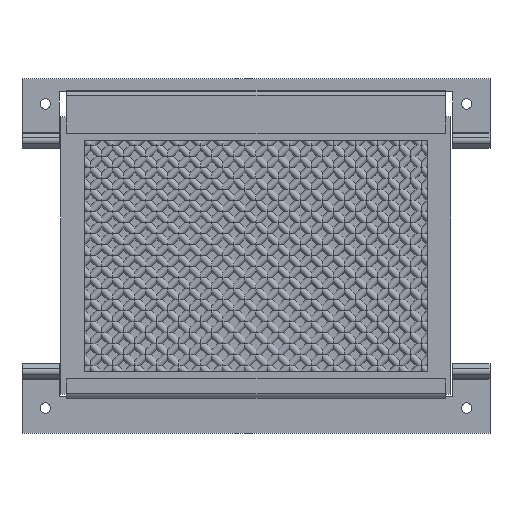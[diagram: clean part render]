
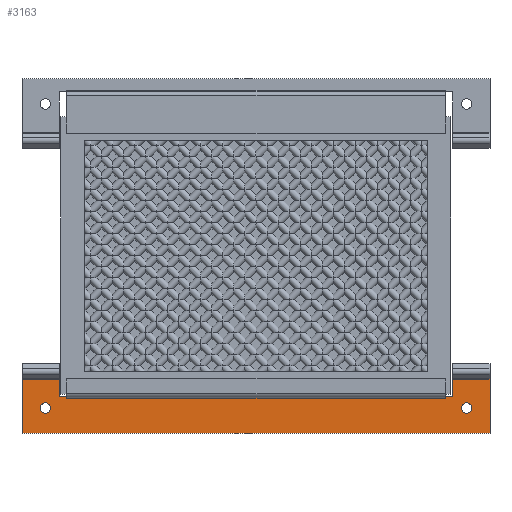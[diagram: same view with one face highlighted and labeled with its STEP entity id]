
A CAD part, front view. The second image highlights one B-rep face of the part: STEP entity #3163.
In plain terms, the highlighted planar face has unit normal (0, -1, 0).
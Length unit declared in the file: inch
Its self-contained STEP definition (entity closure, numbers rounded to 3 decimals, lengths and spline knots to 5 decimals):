
#2295=DIRECTION('',(-1.,0.,0.));
#2296=VECTOR('',#2295,0.125);
#2297=CARTESIAN_POINT('',(3.156,0.,-0.1389));
#2298=LINE('',#2297,#2296);
#2299=DIRECTION('',(0.,0.,-1.));
#2300=VECTOR('',#2299,0.02);
#2301=CARTESIAN_POINT('',(3.031,0.,-0.1189));
#2302=LINE('',#2301,#2300);
#2303=DIRECTION('',(0.,0.,-1.));
#2304=VECTOR('',#2303,0.02);
#2305=CARTESIAN_POINT('',(-3.031,0.,-0.1189));
#2306=LINE('',#2305,#2304);
#2307=DIRECTION('',(-1.,0.,0.));
#2308=VECTOR('',#2307,0.125);
#2309=CARTESIAN_POINT('',(-3.031,0.,-0.1389));
#2310=LINE('',#2309,#2308);
#2311=DIRECTION('',(0.,0.,1.));
#2312=VECTOR('',#2311,0.28235);
#2313=CARTESIAN_POINT('',(-3.156,0.,-0.42125));
#2314=LINE('',#2313,#2312);
#2315=DIRECTION('',(0.,0.,-1.));
#2316=VECTOR('',#2315,0.86735);
#2317=CARTESIAN_POINT('',(-3.75,0.,0.4461));
#2318=LINE('',#2317,#2316);
#2319=DIRECTION('',(0.,0.,1.));
#2320=VECTOR('',#2319,0.28235);
#2321=CARTESIAN_POINT('',(3.156,0.,-0.42125));
#2322=LINE('',#2321,#2320);
#2323=CARTESIAN_POINT('',(3.375,0.,0.0401));
#2324=DIRECTION('',(0.,1.,0.));
#2325=DIRECTION('',(1.,0.,0.));
#2326=AXIS2_PLACEMENT_3D('',#2323,#2324,#2325);
#2328=CARTESIAN_POINT('',(3.375,0.,0.0401));
#2329=DIRECTION('',(0.,1.,0.));
#2330=DIRECTION('',(-1.,0.,0.));
#2331=AXIS2_PLACEMENT_3D('',#2328,#2329,#2330);
#2333=CARTESIAN_POINT('',(-3.375,0.,0.0401));
#2334=DIRECTION('',(0.,1.,0.));
#2335=DIRECTION('',(1.,0.,0.));
#2336=AXIS2_PLACEMENT_3D('',#2333,#2334,#2335);
#2338=CARTESIAN_POINT('',(-3.375,0.,0.0401));
#2339=DIRECTION('',(0.,1.,0.));
#2340=DIRECTION('',(-1.,0.,0.));
#2341=AXIS2_PLACEMENT_3D('',#2338,#2339,#2340);
#2357=DIRECTION('',(1.,0.,0.));
#2358=VECTOR('',#2357,6.062);
#2359=CARTESIAN_POINT('',(-3.031,0.,-0.1189));
#2360=LINE('',#2359,#2358);
#2585=DIRECTION('',(1.,0.,0.));
#2586=VECTOR('',#2585,0.594);
#2587=CARTESIAN_POINT('',(-3.75,0.,-0.42125));
#2588=LINE('',#2587,#2586);
#2594=DIRECTION('',(1.,0.,0.));
#2595=VECTOR('',#2594,0.594);
#2596=CARTESIAN_POINT('',(3.156,0.,-0.42125));
#2597=LINE('',#2596,#2595);
#2811=DIRECTION('',(1.,0.,0.));
#2812=VECTOR('',#2811,7.5);
#2813=CARTESIAN_POINT('',(-3.75,0.,0.4461));
#2814=LINE('',#2813,#2812);
#2823=DIRECTION('',(0.,0.,-1.));
#2824=VECTOR('',#2823,0.86735);
#2825=CARTESIAN_POINT('',(3.75,0.,0.4461));
#2826=LINE('',#2825,#2824);
#2867=CARTESIAN_POINT('',(-3.75,0.,0.4461));
#2868=CARTESIAN_POINT('',(3.75,0.,0.4461));
#2869=VERTEX_POINT('',#2867);
#2870=VERTEX_POINT('',#2868);
#2884=CARTESIAN_POINT('',(3.75,0.,-0.42125));
#2886=VERTEX_POINT('',#2884);
#2888=CARTESIAN_POINT('',(-3.75,0.,-0.42125));
#2890=VERTEX_POINT('',#2888);
#2939=CARTESIAN_POINT('',(3.156,0.,-0.42125));
#2940=CARTESIAN_POINT('',(3.156,0.,-0.1389));
#2941=VERTEX_POINT('',#2939);
#2942=VERTEX_POINT('',#2940);
#2943=CARTESIAN_POINT('',(-3.156,0.,-0.42125));
#2944=CARTESIAN_POINT('',(-3.156,0.,-0.1389));
#2945=VERTEX_POINT('',#2943);
#2946=VERTEX_POINT('',#2944);
#2963=CARTESIAN_POINT('',(-3.031,0.,-0.1189));
#2964=CARTESIAN_POINT('',(-3.031,0.,-0.1389));
#2965=VERTEX_POINT('',#2963);
#2966=VERTEX_POINT('',#2964);
#2971=CARTESIAN_POINT('',(3.031,0.,-0.1189));
#2972=CARTESIAN_POINT('',(3.031,0.,-0.1389));
#2973=VERTEX_POINT('',#2971);
#2974=VERTEX_POINT('',#2972);
#3027=CARTESIAN_POINT('',(-3.292,0.,0.0401));
#3028=CARTESIAN_POINT('',(-3.458,0.,0.0401));
#3029=VERTEX_POINT('',#3027);
#3030=VERTEX_POINT('',#3028);
#3031=CARTESIAN_POINT('',(3.458,0.,0.0401));
#3032=CARTESIAN_POINT('',(3.292,0.,0.0401));
#3033=VERTEX_POINT('',#3031);
#3034=VERTEX_POINT('',#3032);
#3123=CARTESIAN_POINT('',(-3.75,0.,0.4461));
#3124=DIRECTION('',(0.,-1.,0.));
#3125=DIRECTION('',(1.,0.,0.));
#3126=AXIS2_PLACEMENT_3D('',#3123,#3124,#3125);
#3127=PLANE('',#3126);
#3128=ORIENTED_EDGE('',*,*,#3086,.T.);
#3129=ORIENTED_EDGE('',*,*,#3114,.F.);
#3131=ORIENTED_EDGE('',*,*,#3130,.F.);
#3133=ORIENTED_EDGE('',*,*,#3132,.T.);
#3134=ORIENTED_EDGE('',*,*,#3104,.T.);
#3136=ORIENTED_EDGE('',*,*,#3135,.F.);
#3138=ORIENTED_EDGE('',*,*,#3137,.F.);
#3140=ORIENTED_EDGE('',*,*,#3139,.F.);
#3142=ORIENTED_EDGE('',*,*,#3141,.T.);
#3144=ORIENTED_EDGE('',*,*,#3143,.T.);
#3146=ORIENTED_EDGE('',*,*,#3145,.F.);
#3148=ORIENTED_EDGE('',*,*,#3147,.T.);
#3149=EDGE_LOOP('',(#3128,#3129,#3131,#3133,#3134,#3136,#3138,#3140,#3142,#3144,
#3146,#3148));
#3150=FACE_OUTER_BOUND('',#3149,.F.);
#3152=ORIENTED_EDGE('',*,*,#3151,.F.);
#3154=ORIENTED_EDGE('',*,*,#3153,.F.);
#3155=EDGE_LOOP('',(#3152,#3154));
#3156=FACE_BOUND('',#3155,.F.);
#3158=ORIENTED_EDGE('',*,*,#3157,.F.);
#3160=ORIENTED_EDGE('',*,*,#3159,.F.);
#3161=EDGE_LOOP('',(#3158,#3160));
#3162=FACE_BOUND('',#3161,.F.);
#2327=CIRCLE('',#2326,0.083);
#2332=CIRCLE('',#2331,0.083);
#2337=CIRCLE('',#2336,0.083);
#2342=CIRCLE('',#2341,0.083);
#3086=EDGE_CURVE('',#2942,#2974,#2298,.T.);
#3104=EDGE_CURVE('',#2966,#2946,#2310,.T.);
#3114=EDGE_CURVE('',#2973,#2974,#2302,.T.);
#3130=EDGE_CURVE('',#2965,#2973,#2360,.T.);
#3132=EDGE_CURVE('',#2965,#2966,#2306,.T.);
#3135=EDGE_CURVE('',#2945,#2946,#2314,.T.);
#3137=EDGE_CURVE('',#2890,#2945,#2588,.T.);
#3139=EDGE_CURVE('',#2869,#2890,#2318,.T.);
#3141=EDGE_CURVE('',#2869,#2870,#2814,.T.);
#3143=EDGE_CURVE('',#2870,#2886,#2826,.T.);
#3145=EDGE_CURVE('',#2941,#2886,#2597,.T.);
#3147=EDGE_CURVE('',#2941,#2942,#2322,.T.);
#3151=EDGE_CURVE('',#3033,#3034,#2327,.T.);
#3153=EDGE_CURVE('',#3034,#3033,#2332,.T.);
#3157=EDGE_CURVE('',#3029,#3030,#2337,.T.);
#3159=EDGE_CURVE('',#3030,#3029,#2342,.T.);
#3163=ADVANCED_FACE('',(#3150,#3156,#3162),#3127,.T.);
